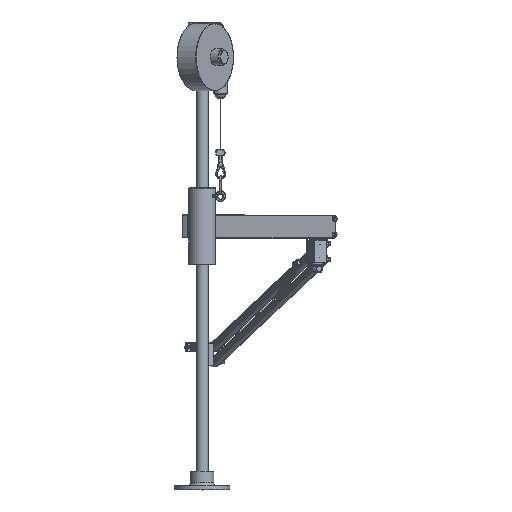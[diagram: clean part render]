
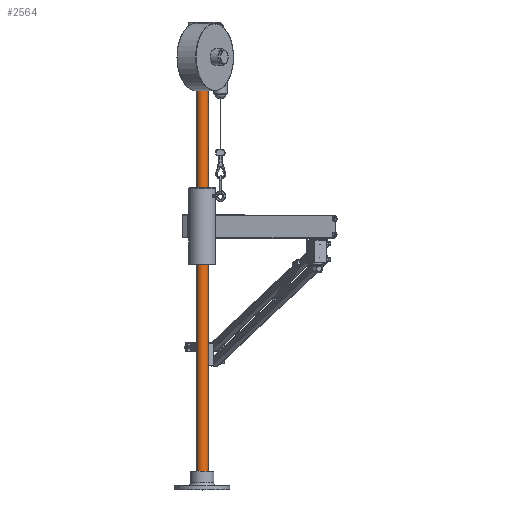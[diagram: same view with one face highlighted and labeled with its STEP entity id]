
A CAD part, top view. The second image highlights one B-rep face of the part: STEP entity #2564.
In plain terms, the highlighted cylindrical face has radius 12.5 mm (diameter 25 mm), a full revolution.
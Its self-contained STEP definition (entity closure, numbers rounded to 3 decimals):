
#2564 = ADVANCED_FACE( '', ( #5328, #5329 ), #5330, .T. );
#5328 = FACE_OUTER_BOUND( '', #8923, .T. );
#5329 = FACE_OUTER_BOUND( '', #8924, .T. );
#5330 = CYLINDRICAL_SURFACE( '', #8925, 12.5 );
#8923 = EDGE_LOOP( '', ( #14010 ) );
#8924 = EDGE_LOOP( '', ( #14011 ) );
#8925 = AXIS2_PLACEMENT_3D( '', #14012, #14013, #14014 );
#14010 = ORIENTED_EDGE( '', *, *, #20749, .T. );
#14011 = ORIENTED_EDGE( '', *, *, #21099, .T. );
#14012 = CARTESIAN_POINT( '', ( -20.166, 15.483, 1000. ) );
#14013 = DIRECTION( '', ( 0., 0., 1. ) );
#14014 = DIRECTION( '', ( -1., 0., 0. ) );
#20749 = EDGE_CURVE( '', #24361, #24361, #24362, .F. );
#21099 = EDGE_CURVE( '', #24916, #24916, #24917, .T. );
#24361 = VERTEX_POINT( '', #29978 );
#24362 = CIRCLE( '', #29979, 12.5 );
#24916 = VERTEX_POINT( '', #31043 );
#24917 = CIRCLE( '', #31044, 12.5 );
#29978 = CARTESIAN_POINT( '', ( -32.666, 15.483, 1. ) );
#29979 = AXIS2_PLACEMENT_3D( '', #36579, #36580, #36581 );
#31043 = CARTESIAN_POINT( '', ( -32.666, 15.483, 999. ) );
#31044 = AXIS2_PLACEMENT_3D( '', #37000, #37001, #37002 );
#36579 = CARTESIAN_POINT( '', ( -20.166, 15.483, 1. ) );
#36580 = DIRECTION( '', ( 0., 0., -1. ) );
#36581 = DIRECTION( '', ( -1., 0., 0. ) );
#37000 = CARTESIAN_POINT( '', ( -20.166, 15.483, 999. ) );
#37001 = DIRECTION( '', ( 0., 0., -1. ) );
#37002 = DIRECTION( '', ( -1., 0., 0. ) );
